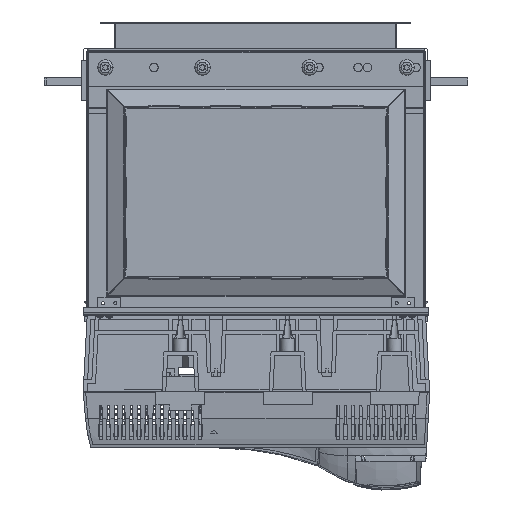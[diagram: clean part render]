
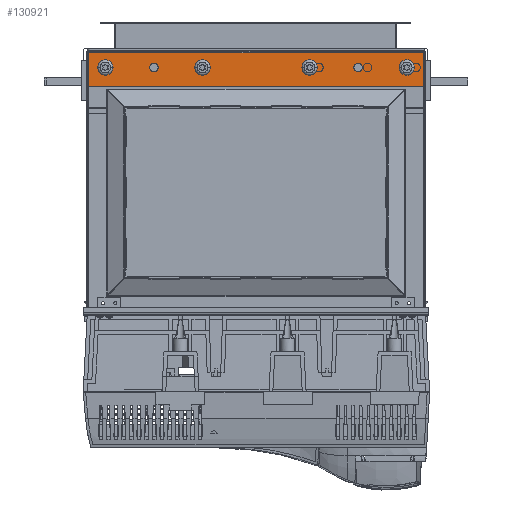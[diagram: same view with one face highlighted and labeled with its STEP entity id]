
A CAD part, front view. The second image highlights one B-rep face of the part: STEP entity #130921.
In plain terms, the highlighted planar face has unit normal (0, -1, 0).
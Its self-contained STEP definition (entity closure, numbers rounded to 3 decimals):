
#130522=DIRECTION('',(0.,0.,1.));
#130523=VECTOR('',#130522,41.5);
#130524=CARTESIAN_POINT('',(496.8,347.6,-81.5));
#130525=LINE('',#130524,#130523);
#130552=CARTESIAN_POINT('',(346.8,347.6,-59.5));
#130553=DIRECTION('',(0.,-1.,0.));
#130554=DIRECTION('',(-1.,0.,0.));
#130555=AXIS2_PLACEMENT_3D('',#130552,#130553,#130554);
#130557=CARTESIAN_POINT('',(346.8,347.6,-59.5));
#130558=DIRECTION('',(0.,-1.,0.));
#130559=DIRECTION('',(1.,0.,0.));
#130560=AXIS2_PLACEMENT_3D('',#130557,#130558,#130559);
#130562=CARTESIAN_POINT('',(473.8,347.6,-59.5));
#130563=DIRECTION('',(0.,-1.,0.));
#130564=DIRECTION('',(-1.,0.,0.));
#130565=AXIS2_PLACEMENT_3D('',#130562,#130563,#130564);
#130567=CARTESIAN_POINT('',(473.8,347.6,-59.5));
#130568=DIRECTION('',(0.,-1.,0.));
#130569=DIRECTION('',(1.,0.,0.));
#130570=AXIS2_PLACEMENT_3D('',#130567,#130568,#130569);
#130572=CARTESIAN_POINT('',(206.8,347.6,-59.5));
#130573=DIRECTION('',(0.,-1.,0.));
#130574=DIRECTION('',(-1.,0.,0.));
#130575=AXIS2_PLACEMENT_3D('',#130572,#130573,#130574);
#130577=CARTESIAN_POINT('',(206.8,347.6,-59.5));
#130578=DIRECTION('',(0.,-1.,0.));
#130579=DIRECTION('',(1.,0.,0.));
#130580=AXIS2_PLACEMENT_3D('',#130577,#130578,#130579);
#130582=CARTESIAN_POINT('',(79.8,347.6,-59.5));
#130583=DIRECTION('',(0.,-1.,0.));
#130584=DIRECTION('',(-1.,0.,0.));
#130585=AXIS2_PLACEMENT_3D('',#130582,#130583,#130584);
#130587=CARTESIAN_POINT('',(79.8,347.6,-59.5));
#130588=DIRECTION('',(0.,-1.,0.));
#130589=DIRECTION('',(1.,0.,0.));
#130590=AXIS2_PLACEMENT_3D('',#130587,#130588,#130589);
#130592=CARTESIAN_POINT('',(143.3,347.6,-59.5));
#130593=DIRECTION('',(0.,-1.,0.));
#130594=DIRECTION('',(-1.,0.,0.));
#130595=AXIS2_PLACEMENT_3D('',#130592,#130593,#130594);
#130597=CARTESIAN_POINT('',(143.3,347.6,-59.5));
#130598=DIRECTION('',(0.,-1.,0.));
#130599=DIRECTION('',(1.,0.,0.));
#130600=AXIS2_PLACEMENT_3D('',#130597,#130598,#130599);
#130602=CARTESIAN_POINT('',(410.3,347.6,-59.5));
#130603=DIRECTION('',(0.,-1.,0.));
#130604=DIRECTION('',(-1.,0.,0.));
#130605=AXIS2_PLACEMENT_3D('',#130602,#130603,#130604);
#130607=CARTESIAN_POINT('',(410.3,347.6,-59.5));
#130608=DIRECTION('',(0.,-1.,0.));
#130609=DIRECTION('',(1.,0.,0.));
#130610=AXIS2_PLACEMENT_3D('',#130607,#130608,#130609);
#130612=CARTESIAN_POINT('',(59.8,347.6,-81.5));
#130613=DIRECTION('',(0.,1.,0.));
#130614=DIRECTION('',(0.,0.,-1.));
#130615=AXIS2_PLACEMENT_3D('',#130612,#130613,#130614);
#130617=DIRECTION('',(1.,0.,0.));
#130618=VECTOR('',#130617,440.);
#130619=CARTESIAN_POINT('',(56.8,347.6,-40.));
#130620=LINE('',#130619,#130618);
#130621=CARTESIAN_POINT('',(493.8,347.6,-81.5));
#130622=DIRECTION('',(0.,1.,0.));
#130623=DIRECTION('',(1.,0.,0.));
#130624=AXIS2_PLACEMENT_3D('',#130621,#130622,#130623);
#130626=DIRECTION('',(-1.,0.,0.));
#130627=VECTOR('',#130626,434.);
#130628=CARTESIAN_POINT('',(493.8,347.6,-84.5));
#130629=LINE('',#130628,#130627);
#130643=DIRECTION('',(0.,0.,1.));
#130644=VECTOR('',#130643,41.5);
#130645=CARTESIAN_POINT('',(56.8,347.6,-81.5));
#130646=LINE('',#130645,#130644);
#130756=CARTESIAN_POINT('',(496.8,347.6,-40.));
#130758=VERTEX_POINT('',#130756);
#130764=CARTESIAN_POINT('',(56.8,347.6,-40.));
#130766=VERTEX_POINT('',#130764);
#130784=CARTESIAN_POINT('',(352.3,347.6,-59.5));
#130785=CARTESIAN_POINT('',(341.3,347.6,-59.5));
#130786=VERTEX_POINT('',#130784);
#130787=VERTEX_POINT('',#130785);
#130788=CARTESIAN_POINT('',(479.3,347.6,-59.5));
#130789=CARTESIAN_POINT('',(468.3,347.6,-59.5));
#130790=VERTEX_POINT('',#130788);
#130791=VERTEX_POINT('',#130789);
#130792=CARTESIAN_POINT('',(212.3,347.6,-59.5));
#130793=CARTESIAN_POINT('',(201.3,347.6,-59.5));
#130794=VERTEX_POINT('',#130792);
#130795=VERTEX_POINT('',#130793);
#130796=CARTESIAN_POINT('',(85.3,347.6,-59.5));
#130797=CARTESIAN_POINT('',(74.3,347.6,-59.5));
#130798=VERTEX_POINT('',#130796);
#130799=VERTEX_POINT('',#130797);
#130808=CARTESIAN_POINT('',(56.8,347.6,-81.5));
#130809=CARTESIAN_POINT('',(59.8,347.6,-84.5));
#130810=VERTEX_POINT('',#130808);
#130811=VERTEX_POINT('',#130809);
#130814=CARTESIAN_POINT('',(493.8,347.6,-84.5));
#130815=CARTESIAN_POINT('',(496.8,347.6,-81.5));
#130816=VERTEX_POINT('',#130814);
#130817=VERTEX_POINT('',#130815);
#130828=CARTESIAN_POINT('',(148.8,347.6,-59.5));
#130829=CARTESIAN_POINT('',(137.8,347.6,-59.5));
#130830=VERTEX_POINT('',#130828);
#130831=VERTEX_POINT('',#130829);
#130832=CARTESIAN_POINT('',(415.8,347.6,-59.5));
#130833=CARTESIAN_POINT('',(404.8,347.6,-59.5));
#130834=VERTEX_POINT('',#130832);
#130835=VERTEX_POINT('',#130833);
#130867=CARTESIAN_POINT('',(496.8,347.6,-84.5));
#130868=DIRECTION('',(0.,-1.,0.));
#130869=DIRECTION('',(0.,0.,1.));
#130870=AXIS2_PLACEMENT_3D('',#130867,#130868,#130869);
#130871=PLANE('',#130870);
#130873=ORIENTED_EDGE('',*,*,#130872,.T.);
#130875=ORIENTED_EDGE('',*,*,#130874,.T.);
#130877=ORIENTED_EDGE('',*,*,#130876,.T.);
#130878=ORIENTED_EDGE('',*,*,#130843,.F.);
#130880=ORIENTED_EDGE('',*,*,#130879,.T.);
#130882=ORIENTED_EDGE('',*,*,#130881,.T.);
#130883=EDGE_LOOP('',(#130873,#130875,#130877,#130878,#130880,#130882));
#130884=FACE_OUTER_BOUND('',#130883,.F.);
#130886=ORIENTED_EDGE('',*,*,#130885,.T.);
#130888=ORIENTED_EDGE('',*,*,#130887,.T.);
#130889=EDGE_LOOP('',(#130886,#130888));
#130890=FACE_BOUND('',#130889,.F.);
#130892=ORIENTED_EDGE('',*,*,#130891,.T.);
#130894=ORIENTED_EDGE('',*,*,#130893,.T.);
#130895=EDGE_LOOP('',(#130892,#130894));
#130896=FACE_BOUND('',#130895,.F.);
#130898=ORIENTED_EDGE('',*,*,#130897,.T.);
#130900=ORIENTED_EDGE('',*,*,#130899,.T.);
#130901=EDGE_LOOP('',(#130898,#130900));
#130902=FACE_BOUND('',#130901,.F.);
#130904=ORIENTED_EDGE('',*,*,#130903,.T.);
#130906=ORIENTED_EDGE('',*,*,#130905,.T.);
#130907=EDGE_LOOP('',(#130904,#130906));
#130908=FACE_BOUND('',#130907,.F.);
#130910=ORIENTED_EDGE('',*,*,#130909,.T.);
#130912=ORIENTED_EDGE('',*,*,#130911,.T.);
#130913=EDGE_LOOP('',(#130910,#130912));
#130914=FACE_BOUND('',#130913,.F.);
#130916=ORIENTED_EDGE('',*,*,#130915,.T.);
#130918=ORIENTED_EDGE('',*,*,#130917,.T.);
#130919=EDGE_LOOP('',(#130916,#130918));
#130920=FACE_BOUND('',#130919,.F.);
#130921=ADVANCED_FACE('',(#130884,#130890,#130896,#130902,#130908,#130914,
#130920),#130871,.T.);
#130556=CIRCLE('',#130555,5.5);
#130561=CIRCLE('',#130560,5.5);
#130566=CIRCLE('',#130565,5.5);
#130571=CIRCLE('',#130570,5.5);
#130576=CIRCLE('',#130575,5.5);
#130581=CIRCLE('',#130580,5.5);
#130586=CIRCLE('',#130585,5.5);
#130591=CIRCLE('',#130590,5.5);
#130596=CIRCLE('',#130595,5.5);
#130601=CIRCLE('',#130600,5.5);
#130606=CIRCLE('',#130605,5.5);
#130611=CIRCLE('',#130610,5.5);
#130616=CIRCLE('',#130615,3.);
#130625=CIRCLE('',#130624,3.);
#130843=EDGE_CURVE('',#130817,#130758,#130525,.T.);
#130872=EDGE_CURVE('',#130811,#130810,#130616,.T.);
#130874=EDGE_CURVE('',#130810,#130766,#130646,.T.);
#130876=EDGE_CURVE('',#130766,#130758,#130620,.T.);
#130879=EDGE_CURVE('',#130817,#130816,#130625,.T.);
#130881=EDGE_CURVE('',#130816,#130811,#130629,.T.);
#130885=EDGE_CURVE('',#130787,#130786,#130556,.T.);
#130887=EDGE_CURVE('',#130786,#130787,#130561,.T.);
#130891=EDGE_CURVE('',#130791,#130790,#130566,.T.);
#130893=EDGE_CURVE('',#130790,#130791,#130571,.T.);
#130897=EDGE_CURVE('',#130795,#130794,#130576,.T.);
#130899=EDGE_CURVE('',#130794,#130795,#130581,.T.);
#130903=EDGE_CURVE('',#130799,#130798,#130586,.T.);
#130905=EDGE_CURVE('',#130798,#130799,#130591,.T.);
#130909=EDGE_CURVE('',#130831,#130830,#130596,.T.);
#130911=EDGE_CURVE('',#130830,#130831,#130601,.T.);
#130915=EDGE_CURVE('',#130835,#130834,#130606,.T.);
#130917=EDGE_CURVE('',#130834,#130835,#130611,.T.);
